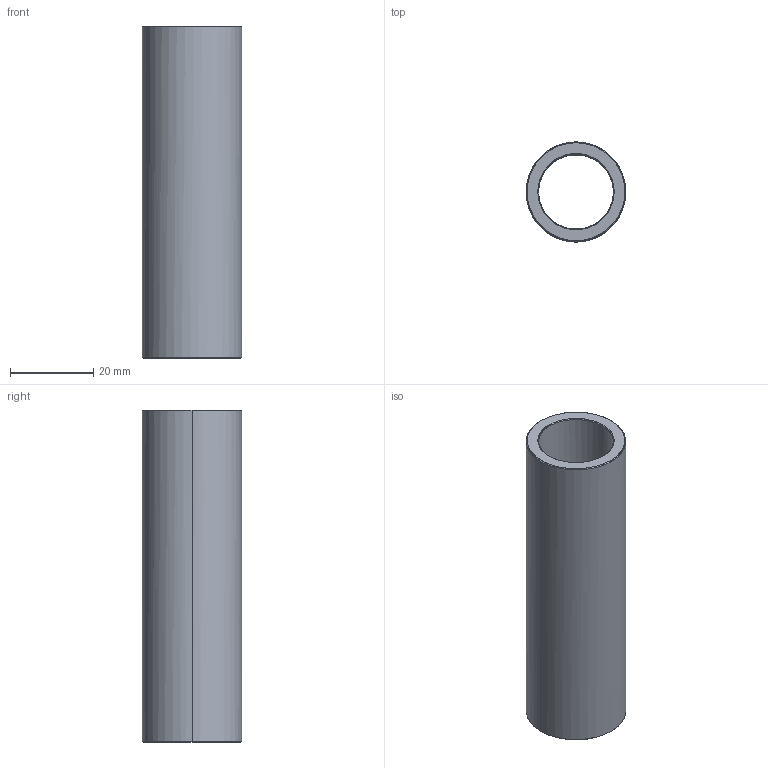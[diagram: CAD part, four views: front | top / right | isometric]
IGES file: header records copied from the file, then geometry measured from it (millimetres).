
Start section: Write IGES format                                    datakit 2008 (c)
Global section: file name: Unknown; native system: DATAKIT Converter; preprocessor: Unknown; author: Unknown; organization: Unknown; date: 950613.180003; units: millimetre
Bounding box: 24 x 23.99 x 80 mm (x, y, z)
Surface area: 10920.7 mm2 (no closed solid volume)
Topology: 0 solids, 0 shells, 14 faces, 56 edges, 56 vertices
Faces by surface type: revolution 12, bspline 2
